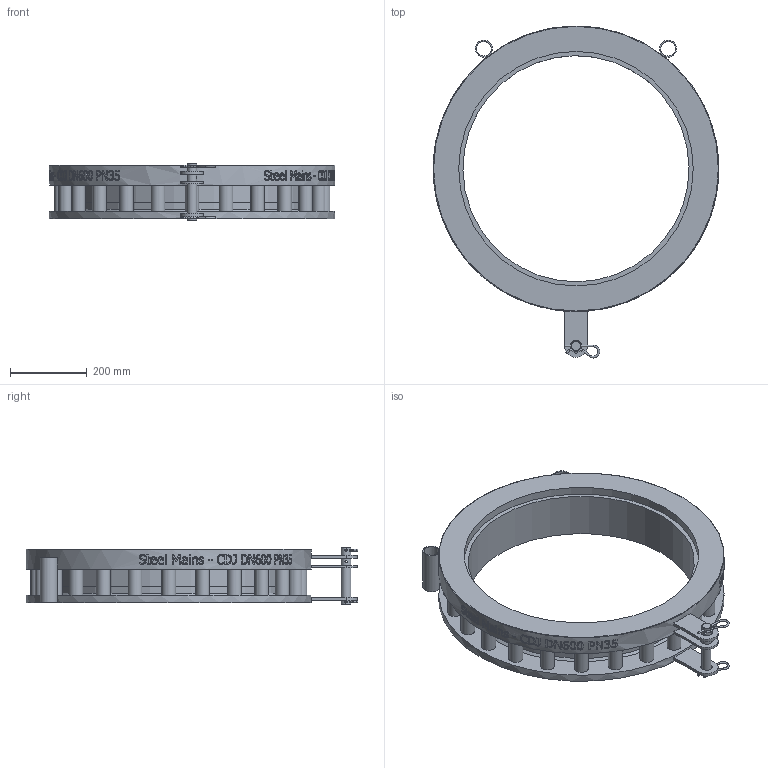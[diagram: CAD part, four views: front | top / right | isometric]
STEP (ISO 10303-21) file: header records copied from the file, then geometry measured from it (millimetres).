
FILE_DESCRIPTION(/* description */ (''),/* implementation_level */ '2;1');
FILE_NAME(/* name */ 'C:\Vault\Designs\Somerton\196\196-38 Models\Marketing Files\SteelMains - CDJ DN600 PN35 - (196-38T rev C).stp',/* time_stamp */ '2025-09-29T11:04:23+10:00',/* author */ ('Sam.Cavallaro'),/* organization */ (''),/* preprocessor_version */ 'ST-DEVELOPER v18.1',/* originating_system */ 'Autodesk Inventor 2021',/* authorisation */ '');
FILE_SCHEMA (('AUTOMOTIVE_DESIGN { 1 0 10303 214 3 1 1 }'));
Length unit declared in the file: millimetre
Products named in the file (1): SPS_ENG-084836
Bounding box: 744.95 x 866.21 x 151 mm (x, y, z)
Volume: 14317127.1 mm3; surface area: 1431373.9 mm2
Topology: 6 solids, 6 shells, 857 faces, 2331 edges, 1555 vertices
Faces by surface type: bspline 426, plane 297, cylinder 121, torus 8, cone 5
Full cylindrical faces by diameter (mm): 4.8 x10, 6 x3, 25 x1, 30 x3, 36 x24, 38.1 x2, 44.5 x2, 590 x1, 606 x1, 610 x1, 612 x1, 745 x1
Entity records: 38303 total; most frequent: CARTESIAN_POINT 18833, ORIENTED_EDGE 4668, DIRECTION 2734, EDGE_CURVE 2334, VERTEX_POINT 1558, LINE 1058, VECTOR 1058, EDGE_LOOP 992
